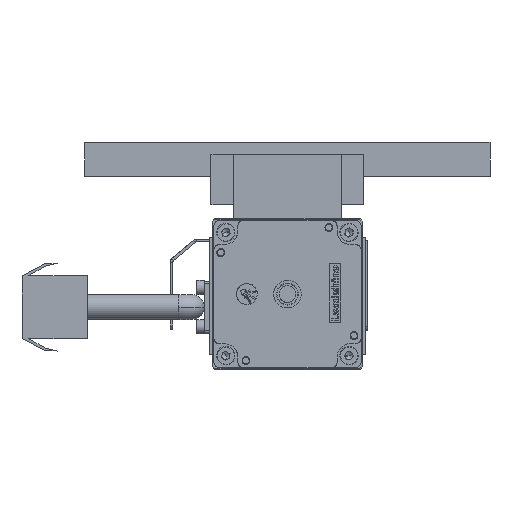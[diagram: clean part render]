
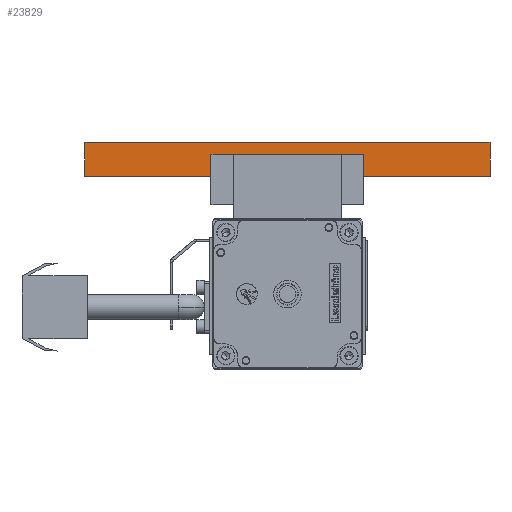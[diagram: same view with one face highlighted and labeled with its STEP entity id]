
A CAD part, left-side view. The second image highlights one B-rep face of the part: STEP entity #23829.
In plain terms, the highlighted planar face has unit normal (-1, 0, 0).
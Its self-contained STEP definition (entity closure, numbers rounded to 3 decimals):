
#1479 = CARTESIAN_POINT ( 'NONE',  ( 116.5, 77.5, 45.75 ) ) ;
#2317 = CARTESIAN_POINT ( 'NONE',  ( 116.5, -77.5, 45.75 ) ) ;
#2899 = LINE ( 'NONE', #99437, #89450 ) ;
#4188 = DIRECTION ( 'NONE',  ( 0., 0., -1. ) ) ;
#4699 = LINE ( 'NONE', #16720, #41966 ) ;
#6148 = ORIENTED_EDGE ( 'NONE', *, *, #43154, .F. ) ;
#9179 = CARTESIAN_POINT ( 'NONE',  ( 116.5, -29.25, 54.25 ) ) ;
#9280 = DIRECTION ( 'NONE',  ( 0., 0., -1. ) ) ;
#9670 = CARTESIAN_POINT ( 'NONE',  ( 116.5, -77.5, 45.75 ) ) ;
#10154 = CARTESIAN_POINT ( 'NONE',  ( 116.5, -77.5, 45.75 ) ) ;
#11628 = ORIENTED_EDGE ( 'NONE', *, *, #95153, .F. ) ;
#11661 = VECTOR ( 'NONE', #9280, 1000. ) ;
#15068 = ORIENTED_EDGE ( 'NONE', *, *, #57371, .T. ) ;
#16720 = CARTESIAN_POINT ( 'NONE',  ( 116.5, 29.25, 34.95 ) ) ;
#17189 = DIRECTION ( 'NONE',  ( 1., 0., 0. ) ) ;
#18196 = DIRECTION ( 'NONE',  ( 0., 1., 0. ) ) ;
#21268 = LINE ( 'NONE', #1479, #11661 ) ;
#22037 = VERTEX_POINT ( 'NONE', #97485 ) ;
#23829 = ADVANCED_FACE ( 'NONE', ( #35346 ), #86986, .F. ) ;
#25211 = EDGE_CURVE ( 'NONE', #84029, #93647, #98670, .T. ) ;
#27447 = CARTESIAN_POINT ( 'NONE',  ( 116.5, -29.25, 45.75 ) ) ;
#32020 = LINE ( 'NONE', #56291, #71607 ) ;
#32568 = DIRECTION ( 'NONE',  ( 0., 1., 0. ) ) ;
#32685 = EDGE_LOOP ( 'NONE', ( #6148, #64575, #96381, #81847, #11628, #34177, #15068, #83546 ) ) ;
#33294 = VERTEX_POINT ( 'NONE', #93492 ) ;
#34177 = ORIENTED_EDGE ( 'NONE', *, *, #53223, .T. ) ;
#35346 = FACE_OUTER_BOUND ( 'NONE', #32685, .T. ) ;
#36100 = CARTESIAN_POINT ( 'NONE',  ( 116.5, -77.5, 45.75 ) ) ;
#41966 = VECTOR ( 'NONE', #4188, 1000. ) ;
#43154 = EDGE_CURVE ( 'NONE', #49618, #22037, #4699, .T. ) ;
#44469 = EDGE_CURVE ( 'NONE', #22037, #84478, #61919, .T. ) ;
#44484 = VECTOR ( 'NONE', #72056, 1000. ) ;
#45268 = DIRECTION ( 'NONE',  ( 0., 0., 1. ) ) ;
#45856 = CARTESIAN_POINT ( 'NONE',  ( 116.5, -77.5, 58.75 ) ) ;
#47520 = VECTOR ( 'NONE', #18196, 1000. ) ;
#49618 = VERTEX_POINT ( 'NONE', #57332 ) ;
#50412 = EDGE_CURVE ( 'NONE', #61266, #49618, #32020, .T. ) ;
#53223 = EDGE_CURVE ( 'NONE', #82005, #33294, #57224, .T. ) ;
#53294 = AXIS2_PLACEMENT_3D ( 'NONE', #2317, #17189, #32568 ) ;
#53520 = CARTESIAN_POINT ( 'NONE',  ( 116.5, -77.5, 45.75 ) ) ;
#56291 = CARTESIAN_POINT ( 'NONE',  ( 116.5, 0., 54.25 ) ) ;
#57224 = LINE ( 'NONE', #94991, #71757 ) ;
#57332 = CARTESIAN_POINT ( 'NONE',  ( 116.5, 29.25, 54.25 ) ) ;
#57371 = EDGE_CURVE ( 'NONE', #33294, #84478, #21268, .T. ) ;
#59539 = LINE ( 'NONE', #36100, #69228 ) ;
#61266 = VERTEX_POINT ( 'NONE', #9179 ) ;
#61919 = LINE ( 'NONE', #10154, #47520 ) ;
#64575 = ORIENTED_EDGE ( 'NONE', *, *, #50412, .F. ) ;
#69228 = VECTOR ( 'NONE', #75382, 1000. ) ;
#71607 = VECTOR ( 'NONE', #87587, 1000. ) ;
#71757 = VECTOR ( 'NONE', #87597, 1000. ) ;
#72056 = DIRECTION ( 'NONE',  ( 0., 1., 0. ) ) ;
#75382 = DIRECTION ( 'NONE',  ( 0., 0., -1. ) ) ;
#81847 = ORIENTED_EDGE ( 'NONE', *, *, #25211, .F. ) ;
#82005 = VERTEX_POINT ( 'NONE', #45856 ) ;
#83546 = ORIENTED_EDGE ( 'NONE', *, *, #44469, .F. ) ;
#83661 = CARTESIAN_POINT ( 'NONE',  ( 116.5, 77.5, 45.75 ) ) ;
#84029 = VERTEX_POINT ( 'NONE', #53520 ) ;
#84478 = VERTEX_POINT ( 'NONE', #83661 ) ;
#86986 = PLANE ( 'NONE',  #53294 ) ;
#87587 = DIRECTION ( 'NONE',  ( 0., 1., 0. ) ) ;
#87597 = DIRECTION ( 'NONE',  ( 0., 1., 0. ) ) ;
#89450 = VECTOR ( 'NONE', #45268, 1000. ) ;
#92333 = EDGE_CURVE ( 'NONE', #93647, #61266, #2899, .T. ) ;
#93492 = CARTESIAN_POINT ( 'NONE',  ( 116.5, 77.5, 58.75 ) ) ;
#93647 = VERTEX_POINT ( 'NONE', #27447 ) ;
#94991 = CARTESIAN_POINT ( 'NONE',  ( 116.5, -77.5, 58.75 ) ) ;
#95153 = EDGE_CURVE ( 'NONE', #82005, #84029, #59539, .T. ) ;
#96381 = ORIENTED_EDGE ( 'NONE', *, *, #92333, .F. ) ;
#97485 = CARTESIAN_POINT ( 'NONE',  ( 116.5, 29.25, 45.75 ) ) ;
#98670 = LINE ( 'NONE', #9670, #44484 ) ;
#99437 = CARTESIAN_POINT ( 'NONE',  ( 116.5, -29.25, 34.95 ) ) ;
